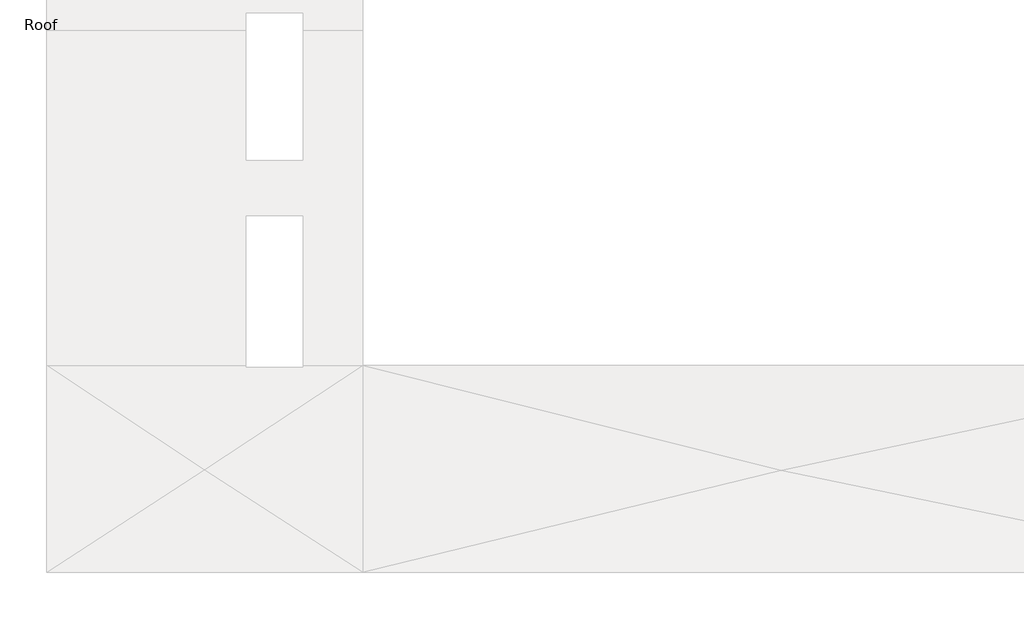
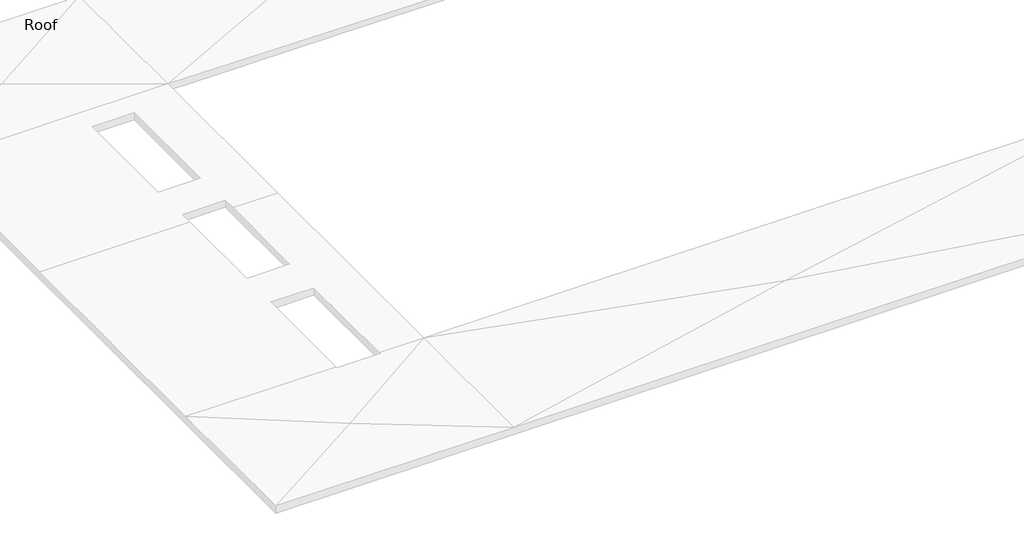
# One storey, part 2 of 7: 16 beams.
"""IFC4 building model written with IfcOpenShell, lengths in millimetres."""

from ifc_helpers import new_model, si_unit, point, frame, frame_2d, origin, place, context, project, spatial, polyline, circle_curve, trimmed, segment, composite_curve, outline, extrude, element, save
from ifc_brep_helpers import plane_surface, revolved_surface, advanced_brep

model = new_model("IFC4")

# Units and contexts
model_context = context("Model", 3, world=origin())
ifc_project = project(units=[si_unit("LENGTHUNIT", "METRE", prefix="MILLI")], contexts=[model_context])

# Site, building, storey
site = spatial("IfcSite", under=ifc_project)
building = spatial("IfcBuilding", under=site)
storey = spatial("IfcBuildingStorey", under=building, Name="Roof", Elevation=11400.0)

# Beams
placement = place(None, origin())
element("IfcBeam", 1, ObjectType="M_Concrete-Rectangular Beam : 400 x 800mm", at=placement, inside=storey, context=model_context, shape_type="AdvancedBrep", body=[
    advanced_brep(
    [(6447.6005584, -15422.9390207, 10600.0), (6447.6005584, -15519.8613801, 10600.0), (6447.6005584, -22435.0613801, 10600.0), (6447.6005584, -22531.9837394, 10600.0), (6447.6005584, -22531.9837394, 11000.0), (6447.6005584, -22435.0613801, 11000.0), (6447.6005584, -15519.8613801, 11000.0), (6447.6005584, -15422.9390207, 11000.0), (6750.678199, -15519.8613801, 10600.0), (6847.6005584, -15519.8613801, 10600.0), (6847.6005584, -22435.0613801, 10600.0), (6847.6005584, -22531.9837394, 10600.0), (6847.6005584, -15519.8613801, 11000.0), (6847.6005584, -22435.0613801, 11000.0), (6847.6005584, -22531.9837394, 11000.0), (6750.678199, -15519.8613801, 11000.0)],
    [
        (0, 1),
        (1, 2),
        (2, 3),
        (3, 4),
        (4, 5),
        (5, 6),
        (6, 7),
        (7, 0),
        (0, 8, circle_curve(frame((6647.6005584, -15319.8613801, 10600.0), z_axis=(0.0, 0.0, 1.0), x_axis=(-1.0, 0.0, 0.0)), 225.0)),
        (8, 9),
        (9, 10),
        (10, 11),
        (11, 3, circle_curve(frame((6647.6005584, -22635.0613801, 10600.0), z_axis=(0.0, 0.0, 1.0), x_axis=(-1.0, 0.0, 0.0)), 225.0)),
        (9, 12),
        (12, 13),
        (13, 14),
        (14, 11),
        (7, 15, circle_curve(frame((6647.6005584, -15319.8613801, 11000.0), z_axis=(0.0, 0.0, 1.0), x_axis=(-1.0, 0.0, 0.0)), 225.0)),
        (15, 8),
        (15, 12),
        (14, 4, circle_curve(frame((6647.6005584, -22635.0613801, 11000.0), z_axis=(0.0, 0.0, 1.0), x_axis=(-1.0, 0.0, 0.0)), 225.0)),
    ],
    [
        plane_surface(frame((6447.6005584, -22397.3613801, 11400.0), z_axis=(-1.0, 0.0, 0.0), x_axis=(0.0, 1.0, 0.0))),
        plane_surface(frame((6447.6005584, -22397.3613801, 10600.0), z_axis=(0.0, 0.0, -1.0), x_axis=(0.0, 1.0, 0.0))),
        plane_surface(frame((6847.6005584, -22397.3613801, 10600.0), z_axis=(1.0, 0.0, 0.0), x_axis=(0.0, 1.0, 0.0))),
        revolved_surface(polyline([(6422.6005584, -15319.8613801, 11000.0), (6422.6005584, -15319.8613801, 10600.0)]), (6647.6005584, -15319.8613801, 7600.0), (0.0, 0.0, 1.0)),
        plane_surface(frame((6885.3005584, -15519.8613801, 11000.0), z_axis=(0.0, 1.0, 0.0), x_axis=(0.0, 0.0, 1.0))),
        revolved_surface(polyline([(6422.6005584, -22635.0613801, 11000.0), (6422.6005584, -22635.0613801, 10600.0)]), (6647.6005584, -22635.0613801, 7600.0), (0.0, 0.0, 1.0)),
        plane_surface(frame((27511.8999097, 22114.0407562, 11000.0), z_axis=(0.0, 0.0, 1.0), x_axis=(0.0, -1.0, 0.0))),
    ],
    [
        (0, [[1, 2, 3, 4, 5, 6, 7, 8]]),
        (1, [[9, 10, 11, 12, 13, -3, -2, -1]]),
        (2, [[-12, -11, 14, 15, 16, 17]]),
        (3, [[-9, -8, 18, 19]]),
        (4, [[-10, -19, 20, -14]]),
        (5, [[-13, -17, 21, -4]]),
        (6, [[-7, -6, -5, -21, -16, -15, -20, -18]]),
    ],
),
])
element("IfcBeam", 2, ObjectType="M_Concrete-Rectangular Beam : 400 x 800mm", at=placement, inside=storey, context=model_context, shape_type="AdvancedBrep", body=[
    advanced_brep(
    [(12746.8005584, -15422.9390207, 10600.0), (12746.8005584, -15519.8613801, 10600.0), (12746.8005584, -22435.0613801, 10600.0), (12746.8005584, -22531.9837394, 10600.0), (12746.8005584, -22531.9837394, 11000.0), (12746.8005584, -22435.0613801, 11000.0), (12746.8005584, -15519.8613801, 11000.0), (12746.8005584, -15422.9390207, 11000.0), (13146.8005584, -15422.9390207, 10600.0), (13146.8005584, -15519.8613801, 10600.0), (13146.8005584, -22435.0613801, 10600.0), (13146.8005584, -22531.9837394, 10600.0), (13146.8005584, -15422.9390207, 11000.0), (13146.8005584, -15519.8613801, 11000.0), (13146.8005584, -22435.0613801, 11000.0), (13146.8005584, -22531.9837394, 11000.0)],
    [
        (0, 1),
        (1, 2),
        (2, 3),
        (3, 4),
        (4, 5),
        (5, 6),
        (6, 7),
        (7, 0),
        (0, 8, circle_curve(frame((12946.8005584, -15319.8613801, 10600.0), z_axis=(0.0, 0.0, 1.0), x_axis=(-1.0, 0.0, 0.0)), 225.0)),
        (8, 9),
        (9, 10),
        (10, 11),
        (11, 3, circle_curve(frame((12946.8005584, -22635.0613801, 10600.0), z_axis=(0.0, 0.0, 1.0), x_axis=(-1.0, 0.0, 0.0)), 225.0)),
        (8, 12),
        (12, 13),
        (13, 14),
        (14, 15),
        (15, 11),
        (7, 12, circle_curve(frame((12946.8005584, -15319.8613801, 11000.0), z_axis=(0.0, 0.0, 1.0), x_axis=(-1.0, 0.0, 0.0)), 225.0)),
        (15, 4, circle_curve(frame((12946.8005584, -22635.0613801, 11000.0), z_axis=(0.0, 0.0, 1.0), x_axis=(-1.0, 0.0, 0.0)), 225.0)),
    ],
    [
        plane_surface(frame((12746.8005584, -22397.3613801, 11400.0), z_axis=(-1.0, 0.0, 0.0), x_axis=(0.0, 1.0, 0.0))),
        plane_surface(frame((12746.8005584, -22397.3613801, 10600.0), z_axis=(0.0, 0.0, -1.0), x_axis=(0.0, 1.0, 0.0))),
        plane_surface(frame((13146.8005584, -22397.3613801, 10600.0), z_axis=(1.0, 0.0, 0.0), x_axis=(0.0, 1.0, 0.0))),
        revolved_surface(polyline([(12721.8005584, -15319.8613801, 11000.0), (12721.8005584, -15319.8613801, 10600.0)]), (12946.8005584, -15319.8613801, 7600.0), (0.0, 0.0, 1.0)),
        revolved_surface(polyline([(12721.8005584, -22635.0613801, 11000.0), (12721.8005584, -22635.0613801, 10600.0)]), (12946.8005584, -22635.0613801, 7600.0), (0.0, 0.0, 1.0)),
        plane_surface(frame((27511.8999097, 22114.0407562, 11000.0), z_axis=(0.0, 0.0, 1.0), x_axis=(0.0, -1.0, 0.0))),
    ],
    [
        (0, [[1, 2, 3, 4, 5, 6, 7, 8]]),
        (1, [[9, 10, 11, 12, 13, -3, -2, -1]]),
        (2, [[-12, -11, -10, 14, 15, 16, 17, 18]]),
        (3, [[-9, -8, 19, -14]]),
        (4, [[-13, -18, 20, -4]]),
        (5, [[-7, -6, -5, -20, -17, -16, -15, -19]]),
    ],
),
])
element("IfcBeam", 3, ObjectType="M_Concrete-Rectangular Beam : 400 x 800mm", at=placement, inside=storey, context=model_context, shape_type="AdvancedBrep", body=[
    advanced_brep(
    [(19249.2005584, -15422.9390207, 10600.0), (19249.2005584, -15519.8613801, 10600.0), (19249.2005584, -22435.0613801, 10600.0), (19249.2005584, -22531.9837394, 10600.0), (19249.2005584, -22531.9837394, 11000.0), (19249.2005584, -22435.0613801, 11000.0), (19249.2005584, -15519.8613801, 11000.0), (19249.2005584, -15422.9390207, 11000.0), (19649.2005584, -15422.9390207, 10600.0), (19649.2005584, -15519.8613801, 10600.0), (19649.2005584, -22435.0613801, 10600.0), (19649.2005584, -22531.9837394, 10600.0), (19649.2005584, -15422.9390207, 11000.0), (19649.2005584, -15519.8613801, 11000.0), (19649.2005584, -22435.0613801, 11000.0), (19649.2005584, -22531.9837394, 11000.0)],
    [
        (0, 1),
        (1, 2),
        (2, 3),
        (3, 4),
        (4, 5),
        (5, 6),
        (6, 7),
        (7, 0),
        (0, 8, circle_curve(frame((19449.2005584, -15319.8613801, 10600.0), z_axis=(0.0, 0.0, 1.0), x_axis=(-1.0, 0.0, 0.0)), 225.0)),
        (8, 9),
        (9, 10),
        (10, 11),
        (11, 3, circle_curve(frame((19449.2005584, -22635.0613801, 10600.0), z_axis=(0.0, 0.0, 1.0), x_axis=(-1.0, 0.0, 0.0)), 225.0)),
        (8, 12),
        (12, 13),
        (13, 14),
        (14, 15),
        (15, 11),
        (7, 12, circle_curve(frame((19449.2005584, -15319.8613801, 11000.0), z_axis=(0.0, 0.0, 1.0), x_axis=(-1.0, 0.0, 0.0)), 225.0)),
        (15, 4, circle_curve(frame((19449.2005584, -22635.0613801, 11000.0), z_axis=(0.0, 0.0, 1.0), x_axis=(-1.0, 0.0, 0.0)), 225.0)),
    ],
    [
        plane_surface(frame((19249.2005584, -22397.3613801, 11400.0), z_axis=(-1.0, 0.0, 0.0), x_axis=(0.0, 1.0, 0.0))),
        plane_surface(frame((19249.2005584, -22397.3613801, 10600.0), z_axis=(0.0, 0.0, -1.0), x_axis=(0.0, 1.0, 0.0))),
        plane_surface(frame((19649.2005584, -22397.3613801, 10600.0), z_axis=(1.0, 0.0, 0.0), x_axis=(0.0, 1.0, 0.0))),
        revolved_surface(polyline([(19224.2005584, -15319.8613801, 11000.0), (19224.2005584, -15319.8613801, 10600.0)]), (19449.2005584, -15319.8613801, 7600.0), (0.0, 0.0, 1.0)),
        revolved_surface(polyline([(19224.2005584, -22635.0613801, 11000.0), (19224.2005584, -22635.0613801, 10600.0)]), (19449.2005584, -22635.0613801, 7600.0), (0.0, 0.0, 1.0)),
        plane_surface(frame((27511.8999097, 22114.0407562, 11000.0), z_axis=(0.0, 0.0, 1.0), x_axis=(0.0, -1.0, 0.0))),
    ],
    [
        (0, [[1, 2, 3, 4, 5, 6, 7, 8]]),
        (1, [[9, 10, 11, 12, 13, -3, -2, -1]]),
        (2, [[-12, -11, -10, 14, 15, 16, 17, 18]]),
        (3, [[-9, -8, 19, -14]]),
        (4, [[-13, -18, 20, -4]]),
        (5, [[-7, -6, -5, -20, -17, -16, -15, -19]]),
    ],
),
])
element("IfcBeam", 4, ObjectType="M_Concrete-Rectangular Beam : 400 x 800mm", at=placement, inside=storey, context=model_context, shape_type="AdvancedBrep", body=[
    advanced_brep(
    [(25751.6005584, -15422.9390207, 10600.0), (25751.6005584, -15519.8613801, 10600.0), (25751.6005584, -22435.0613801, 10600.0), (25751.6005584, -22531.9837394, 10600.0), (25751.6005584, -22531.9837394, 11000.0), (25751.6005584, -22435.0613801, 11000.0), (25751.6005584, -15519.8613801, 11000.0), (25751.6005584, -15422.9390207, 11000.0), (26151.6005584, -15422.9390207, 10600.0), (26151.6005584, -15519.8613801, 10600.0), (26151.6005584, -22435.0613801, 10600.0), (26151.6005584, -22531.9837394, 10600.0), (26151.6005584, -15422.9390207, 11000.0), (26151.6005584, -15519.8613801, 11000.0), (26151.6005584, -22435.0613801, 11000.0), (26151.6005584, -22531.9837394, 11000.0)],
    [
        (0, 1),
        (1, 2),
        (2, 3),
        (3, 4),
        (4, 5),
        (5, 6),
        (6, 7),
        (7, 0),
        (0, 8, circle_curve(frame((25951.6005584, -15319.8613801, 10600.0), z_axis=(0.0, 0.0, 1.0), x_axis=(-1.0, 0.0, 0.0)), 225.0)),
        (8, 9),
        (9, 10),
        (10, 11),
        (11, 3, circle_curve(frame((25951.6005584, -22635.0613801, 10600.0), z_axis=(0.0, 0.0, 1.0), x_axis=(-1.0, 0.0, 0.0)), 225.0)),
        (8, 12),
        (12, 13),
        (13, 14),
        (14, 15),
        (15, 11),
        (7, 12, circle_curve(frame((25951.6005584, -15319.8613801, 11000.0), z_axis=(0.0, 0.0, 1.0), x_axis=(-1.0, 0.0, 0.0)), 225.0)),
        (15, 4, circle_curve(frame((25951.6005584, -22635.0613801, 11000.0), z_axis=(0.0, 0.0, 1.0), x_axis=(-1.0, 0.0, 0.0)), 225.0)),
    ],
    [
        plane_surface(frame((25751.6005584, -22397.3613801, 11400.0), z_axis=(-1.0, 0.0, 0.0), x_axis=(0.0, 1.0, 0.0))),
        plane_surface(frame((25751.6005584, -22397.3613801, 10600.0), z_axis=(0.0, 0.0, -1.0), x_axis=(0.0, 1.0, 0.0))),
        plane_surface(frame((26151.6005584, -22397.3613801, 10600.0), z_axis=(1.0, 0.0, 0.0), x_axis=(0.0, 1.0, 0.0))),
        revolved_surface(polyline([(25726.6005584, -15319.8613801, 11000.0), (25726.6005584, -15319.8613801, 10600.0)]), (25951.6005584, -15319.8613801, 7600.0), (0.0, 0.0, 1.0)),
        revolved_surface(polyline([(25726.6005584, -22635.0613801, 11000.0), (25726.6005584, -22635.0613801, 10600.0)]), (25951.6005584, -22635.0613801, 7600.0), (0.0, 0.0, 1.0)),
        plane_surface(frame((27511.8999097, 22114.0407562, 11000.0), z_axis=(0.0, 0.0, 1.0), x_axis=(0.0, -1.0, 0.0))),
    ],
    [
        (0, [[1, 2, 3, 4, 5, 6, 7, 8]]),
        (1, [[9, 10, 11, 12, 13, -3, -2, -1]]),
        (2, [[-12, -11, -10, 14, 15, 16, 17, 18]]),
        (3, [[-9, -8, 19, -14]]),
        (4, [[-13, -18, 20, -4]]),
        (5, [[-7, -6, -5, -20, -17, -16, -15, -19]]),
    ],
),
])
element("IfcBeam", 5, ObjectType="M_Concrete-Rectangular Beam : 400 x 800mm", at=placement, inside=storey, context=model_context, shape_type="AdvancedBrep", body=[
    advanced_brep(
    [(554.8005584, -5569.4613801, 10600.0), (-1586.7994416, -5569.4613801, 10600.0), (-1586.7994416, -5569.4613801, 11000.0), (554.8005584, -5569.4613801, 11000.0), (554.8005584, -5666.3837394, 10600.0), (529.8005584, -5769.4613801, 10600.0), (651.7229178, -5969.4613801, 10600.0), (554.8005584, -5969.4613801, 10600.0), (-1586.7994416, -5969.4613801, 10600.0), (651.7229178, -5969.4613801, 11000.0), (554.8005584, -5969.4613801, 11000.0), (-1586.7994416, -5969.4613801, 11000.0), (554.8005584, -5666.3837394, 11000.0), (529.8005584, -5769.4613801, 11000.0)],
    [
        (0, 1),
        (1, 2),
        (2, 3),
        (3, 0),
        (0, 4),
        (4, 5, circle_curve(frame((754.8005584, -5769.4613801, 10600.0), z_axis=(0.0, 0.0, 1.0), x_axis=(-1.0, 0.0, 0.0)), 225.0)),
        (5, 6, circle_curve(frame((754.8005584, -5769.4613801, 10600.0), z_axis=(0.0, 0.0, 1.0), x_axis=(-1.0, 0.0, 0.0)), 225.0)),
        (6, 7),
        (7, 8),
        (8, 1),
        (6, 9),
        (9, 10),
        (10, 11),
        (11, 8),
        (3, 12),
        (12, 4),
        (5, 13),
        (13, 9, circle_curve(frame((754.8005584, -5769.4613801, 11000.0), z_axis=(0.0, 0.0, 1.0), x_axis=(-1.0, 0.0, 0.0)), 225.0)),
        (12, 13, circle_curve(frame((754.8005584, -5769.4613801, 11000.0), z_axis=(0.0, 0.0, 1.0), x_axis=(-1.0, 0.0, 0.0)), 225.0)),
        (11, 2),
    ],
    [
        plane_surface(frame((-1649.0994416, -5569.4613801, 11000.0), z_axis=(0.0, 1.0, 0.0), x_axis=(0.0, 0.0, -1.0))),
        plane_surface(frame((-1649.0994416, -5769.4613801, 10600.0), z_axis=(0.0, 0.0, -1.0), x_axis=(0.0, -1.0, 0.0))),
        plane_surface(frame((-1649.0994416, -5969.4613801, 11000.0), z_axis=(0.0, -1.0, 0.0), x_axis=(0.0, 0.0, 1.0))),
        plane_surface(frame((554.8005584, -5531.7613801, 11000.0), z_axis=(1.0, 0.0, 0.0), x_axis=(0.0, 0.0, -1.0))),
        revolved_surface(polyline([(529.8005584, -5769.4613801, 11000.0), (529.8005584, -5769.4613801, 10600.0)]), (754.8005584, -5769.4613801, 7600.0), (0.0, 0.0, 1.0)),
        plane_surface(frame((-1586.7994416, -5531.7613801, 10950.0), z_axis=(-1.0, 0.0, 0.0), x_axis=(0.0, 0.0, 1.0))),
        plane_surface(frame((27511.8999097, 22114.0407562, 11000.0), z_axis=(0.0, 0.0, 1.0), x_axis=(0.0, -1.0, 0.0))),
    ],
    [
        (0, [[1, 2, 3, 4]]),
        (1, [[5, 6, 7, 8, 9, 10, -1]]),
        (2, [[-9, -8, 11, 12, 13, 14]]),
        (3, [[-5, -4, 15, 16]]),
        (4, [[-7, 17, 18, -11]]),
        (4, [[-6, -16, 19, -17]]),
        (5, [[-10, -14, 20, -2]]),
        (6, [[-3, -20, -13, -12, -18, -19, -15]]),
    ],
),
])
element("IfcBeam", 6, ObjectType="M_Concrete-Rectangular Beam : 400 x 800mm", at=placement, inside=storey, context=model_context, shape_type="AdvancedBrep", body=[
    advanced_brep(
    [(-2186.7994416, -5569.4613801, 10600.0), (-9001.9994416, -5569.4613801, 10600.0), (-9001.9994416, -5569.4613801, 11000.0), (-2186.7994416, -5569.4613801, 11000.0), (-9001.9994416, -5666.3837394, 10600.0), (-2186.7994416, -5969.4613801, 10600.0), (-3515.5994416, -5969.4613801, 10600.0), (-3915.5994416, -5969.4613801, 10600.0), (-5344.3994416, -5969.4613801, 10600.0), (-5744.3994416, -5969.4613801, 10600.0), (-7173.1994416, -5969.4613801, 10600.0), (-7573.1994416, -5969.4613801, 10600.0), (-9001.9994416, -5969.4613801, 10600.0), (-9098.921801, -5969.4613801, 10600.0), (-8976.9994416, -5769.4613801, 10600.0), (-2186.7994416, -5969.4613801, 11000.0), (-3515.5994416, -5969.4613801, 11000.0), (-3915.5994416, -5969.4613801, 11000.0), (-5344.3994416, -5969.4613801, 11000.0), (-5744.3994416, -5969.4613801, 11000.0), (-7173.1994416, -5969.4613801, 11000.0), (-7573.1994416, -5969.4613801, 11000.0), (-9001.9994416, -5969.4613801, 11000.0), (-9098.921801, -5969.4613801, 11000.0), (-9001.9994416, -5666.3837394, 11000.0), (-8976.9994416, -5769.4613801, 11000.0)],
    [
        (0, 1),
        (1, 2),
        (2, 3),
        (3, 0),
        (4, 1),
        (0, 5),
        (5, 6),
        (6, 7),
        (7, 8),
        (8, 9),
        (9, 10),
        (10, 11),
        (11, 12),
        (12, 13),
        (13, 14, circle_curve(frame((-9201.9994416, -5769.4613801, 10600.0), z_axis=(0.0, 0.0, 1.0), x_axis=(-1.0, 0.0, 0.0)), 225.0)),
        (14, 4, circle_curve(frame((-9201.9994416, -5769.4613801, 10600.0), z_axis=(0.0, 0.0, 1.0), x_axis=(-1.0, 0.0, 0.0)), 225.0)),
        (5, 15),
        (15, 16),
        (16, 17),
        (17, 18),
        (18, 19),
        (19, 20),
        (20, 21),
        (21, 22),
        (22, 23),
        (23, 13),
        (4, 24),
        (24, 2),
        (23, 25, circle_curve(frame((-9201.9994416, -5769.4613801, 11000.0), z_axis=(0.0, 0.0, 1.0), x_axis=(-1.0, 0.0, 0.0)), 225.0)),
        (25, 14),
        (25, 24, circle_curve(frame((-9201.9994416, -5769.4613801, 11000.0), z_axis=(0.0, 0.0, 1.0), x_axis=(-1.0, 0.0, 0.0)), 225.0)),
        (3, 15),
    ],
    [
        plane_surface(frame((-8964.2994416, -5569.4613801, 11400.0), z_axis=(0.0, 1.0, 0.0), x_axis=(1.0, 0.0, 0.0))),
        plane_surface(frame((-8964.2994416, -5569.4613801, 10600.0), z_axis=(0.0, 0.0, -1.0), x_axis=(1.0, 0.0, 0.0))),
        plane_surface(frame((-8964.2994416, -5969.4613801, 10600.0), z_axis=(0.0, -1.0, 0.0), x_axis=(1.0, 0.0, 0.0))),
        plane_surface(frame((-9001.9994416, -5531.7613801, 11000.0), z_axis=(-1.0, 0.0, 0.0), x_axis=(0.0, 0.0, 1.0))),
        revolved_surface(polyline([(-9426.9994416, -5769.4613801, 11000.0), (-9426.9994416, -5769.4613801, 10600.0)]), (-9201.9994416, -5769.4613801, 7600.0), (0.0, 0.0, 1.0)),
        plane_surface(frame((-2186.7994416, -5545.5322965, 10500.0), z_axis=(1.0, 0.0, 0.0), x_axis=(0.0, -1.0, 0.0))),
        plane_surface(frame((27511.8999097, 22114.0407562, 11000.0), z_axis=(0.0, 0.0, 1.0), x_axis=(0.0, -1.0, 0.0))),
    ],
    [
        (0, [[1, 2, 3, 4]]),
        (1, [[5, -1, 6, 7, 8, 9, 10, 11, 12, 13, 14, 15, 16]]),
        (2, [[-14, -13, -12, -11, -10, -9, -8, -7, 17, 18, 19, 20, 21, 22, 23, 24, 25, 26]]),
        (3, [[-5, 27, 28, -2]]),
        (4, [[-15, -26, 29, 30]]),
        (4, [[-16, -30, 31, -27]]),
        (5, [[-6, -4, 32, -17]]),
        (6, [[-3, -28, -31, -29, -25, -24, -23, -22, -21, -20, -19, -18, -32]]),
    ],
),
])
element("IfcBeam", 7, ObjectType="M_Concrete-Rectangular Beam : 400 x 800mm", at=placement, inside=storey, context=model_context, shape_type="SweptSolid", body=[
    extrude(outline(composite_curve([segment(polyline([(954.8005584, -15216.7837394), (954.8005584, -15119.8613801), (6447.6005584, -15119.8613801), (6447.6005584, -15216.7837394)]), True, "CONTINUOUS"), segment(trimmed(circle_curve(frame_2d((6647.6005584, -15319.8613801)), 225.0), [point((6447.6005584, -15216.7837394))], [point((6422.6005584, -15319.8613801))], True, "CARTESIAN"), True, "CONTINUOUS"), segment(trimmed(circle_curve(frame_2d((6647.6005584, -15319.8613801)), 225.0), [point((6422.6005584, -15319.8613801))], [point((6447.6005584, -15422.9390207))], True, "CARTESIAN"), True, "CONTINUOUS"), segment(polyline([(6447.6005584, -15422.9390207), (6447.6005584, -15519.8613801), (857.878199, -15519.8613801)]), True, "CONTINUOUS"), segment(trimmed(circle_curve(frame_2d((754.8005584, -15319.8613801)), 225.0), [point((857.878199, -15519.8613801))], [point((979.8005584, -15319.8613801))], True, "CARTESIAN"), True, "CONTINUOUS"), segment(trimmed(circle_curve(frame_2d((754.8005584, -15319.8613801)), 225.0), [point((979.8005584, -15319.8613801))], [point((954.8005584, -15216.7837394))], True, "CARTESIAN"), True, "CONTINUOUS")], self_intersect=False)), frame((0.0, 0.0, 10600.0), z_axis=(0.0, 0.0, 1.0), x_axis=(1.0, 0.0, 0.0)), (0.0, 0.0, 1.0), 400.0),
])
element("IfcBeam", 8, ObjectType="M_Concrete-Rectangular Beam : 400 x 800mm", at=placement, inside=storey, context=model_context, shape_type="SweptSolid", body=[
    extrude(outline(composite_curve([segment(polyline([(26151.6005584, -22531.9837394), (26151.6005584, -22435.0613801), (32254.0005584, -22435.0613801), (32254.0005584, -22531.9837394)]), True, "CONTINUOUS"), segment(trimmed(circle_curve(frame_2d((32454.0005584, -22635.0613801)), 225.0), [point((32254.0005584, -22531.9837394))], [point((32229.0005584, -22635.0613801))], True, "CARTESIAN"), True, "CONTINUOUS"), segment(trimmed(circle_curve(frame_2d((32454.0005584, -22635.0613801)), 225.0), [point((32229.0005584, -22635.0613801))], [point((32350.9229178, -22835.0613801))], True, "CARTESIAN"), True, "CONTINUOUS"), segment(polyline([(32350.9229178, -22835.0613801), (26054.678199, -22835.0613801)]), True, "CONTINUOUS"), segment(trimmed(circle_curve(frame_2d((25951.6005584, -22635.0613801)), 225.0), [point((26054.678199, -22835.0613801))], [point((26176.6005584, -22635.0613801))], True, "CARTESIAN"), True, "CONTINUOUS"), segment(trimmed(circle_curve(frame_2d((25951.6005584, -22635.0613801)), 225.0), [point((26176.6005584, -22635.0613801))], [point((26151.6005584, -22531.9837394))], True, "CARTESIAN"), True, "CONTINUOUS")], self_intersect=False)), frame((0.0, 0.0, 10600.0), z_axis=(0.0, 0.0, 1.0), x_axis=(1.0, 0.0, 0.0)), (0.0, 0.0, 1.0), 400.0),
])
element("IfcBeam", 9, ObjectType="M_Concrete-Rectangular Beam : 400 x 800mm", at=placement, inside=storey, context=model_context, shape_type="SweptSolid", body=[
    extrude(outline(composite_curve([segment(polyline([(19649.2005584, -22531.9837394), (19649.2005584, -22435.0613801), (25751.6005584, -22435.0613801), (25751.6005584, -22531.9837394)]), True, "CONTINUOUS"), segment(trimmed(circle_curve(frame_2d((25951.6005584, -22635.0613801)), 225.0), [point((25751.6005584, -22531.9837394))], [point((25726.6005584, -22635.0613801))], True, "CARTESIAN"), True, "CONTINUOUS"), segment(trimmed(circle_curve(frame_2d((25951.6005584, -22635.0613801)), 225.0), [point((25726.6005584, -22635.0613801))], [point((25848.5229178, -22835.0613801))], True, "CARTESIAN"), True, "CONTINUOUS"), segment(polyline([(25848.5229178, -22835.0613801), (19552.278199, -22835.0613801)]), True, "CONTINUOUS"), segment(trimmed(circle_curve(frame_2d((19449.2005584, -22635.0613801)), 225.0), [point((19552.278199, -22835.0613801))], [point((19674.2005584, -22635.0613801))], True, "CARTESIAN"), True, "CONTINUOUS"), segment(trimmed(circle_curve(frame_2d((19449.2005584, -22635.0613801)), 225.0), [point((19674.2005584, -22635.0613801))], [point((19649.2005584, -22531.9837394))], True, "CARTESIAN"), True, "CONTINUOUS")], self_intersect=False)), frame((0.0, 0.0, 10600.0), z_axis=(0.0, 0.0, 1.0), x_axis=(1.0, 0.0, 0.0)), (0.0, 0.0, 1.0), 400.0),
])
element("IfcBeam", 10, ObjectType="M_Concrete-Rectangular Beam : 400 x 800mm", at=placement, inside=storey, context=model_context, shape_type="SweptSolid", body=[
    extrude(outline(composite_curve([segment(polyline([(13146.8005584, -22531.9837394), (13146.8005584, -22435.0613801), (19249.2005584, -22435.0613801), (19249.2005584, -22531.9837394)]), True, "CONTINUOUS"), segment(trimmed(circle_curve(frame_2d((19449.2005584, -22635.0613801)), 225.0), [point((19249.2005584, -22531.9837394))], [point((19224.2005584, -22635.0613801))], True, "CARTESIAN"), True, "CONTINUOUS"), segment(trimmed(circle_curve(frame_2d((19449.2005584, -22635.0613801)), 225.0), [point((19224.2005584, -22635.0613801))], [point((19346.1229178, -22835.0613801))], True, "CARTESIAN"), True, "CONTINUOUS"), segment(polyline([(19346.1229178, -22835.0613801), (13049.878199, -22835.0613801)]), True, "CONTINUOUS"), segment(trimmed(circle_curve(frame_2d((12946.8005584, -22635.0613801)), 225.0), [point((13049.878199, -22835.0613801))], [point((13171.8005584, -22635.0613801))], True, "CARTESIAN"), True, "CONTINUOUS"), segment(trimmed(circle_curve(frame_2d((12946.8005584, -22635.0613801)), 225.0), [point((13171.8005584, -22635.0613801))], [point((13146.8005584, -22531.9837394))], True, "CARTESIAN"), True, "CONTINUOUS")], self_intersect=False)), frame((0.0, 0.0, 10600.0), z_axis=(0.0, 0.0, 1.0), x_axis=(1.0, 0.0, 0.0)), (0.0, 0.0, 1.0), 400.0),
])
element("IfcBeam", 11, ObjectType="M_Concrete-Rectangular Beam : 400 x 800mm", at=placement, inside=storey, context=model_context, shape_type="SweptSolid", body=[
    extrude(outline(composite_curve([segment(polyline([(6847.6005584, -22531.9837394), (6847.6005584, -22435.0613801), (12746.8005584, -22435.0613801), (12746.8005584, -22531.9837394)]), True, "CONTINUOUS"), segment(trimmed(circle_curve(frame_2d((12946.8005584, -22635.0613801)), 225.0), [point((12746.8005584, -22531.9837394))], [point((12721.8005584, -22635.0613801))], True, "CARTESIAN"), True, "CONTINUOUS"), segment(trimmed(circle_curve(frame_2d((12946.8005584, -22635.0613801)), 225.0), [point((12721.8005584, -22635.0613801))], [point((12843.7229178, -22835.0613801))], True, "CARTESIAN"), True, "CONTINUOUS"), segment(polyline([(12843.7229178, -22835.0613801), (6750.678199, -22835.0613801)]), True, "CONTINUOUS"), segment(trimmed(circle_curve(frame_2d((6647.6005584, -22635.0613801)), 225.0), [point((6750.678199, -22835.0613801))], [point((6872.6005584, -22635.0613801))], True, "CARTESIAN"), True, "CONTINUOUS"), segment(trimmed(circle_curve(frame_2d((6647.6005584, -22635.0613801)), 225.0), [point((6872.6005584, -22635.0613801))], [point((6847.6005584, -22531.9837394))], True, "CARTESIAN"), True, "CONTINUOUS")], self_intersect=False)), frame((0.0, 0.0, 10600.0), z_axis=(0.0, 0.0, 1.0), x_axis=(1.0, 0.0, 0.0)), (0.0, 0.0, 1.0), 400.0),
])
element("IfcBeam", 12, ObjectType="M_Concrete-Rectangular Beam : 400 x 800mm", at=placement, inside=storey, context=model_context, shape_type="SweptSolid", body=[
    extrude(outline(composite_curve([segment(polyline([(6447.6005584, -22435.0613801), (6447.6005584, -22531.9837394)]), True, "CONTINUOUS"), segment(trimmed(circle_curve(frame_2d((6647.6005584, -22635.0613801)), 225.0), [point((6447.6005584, -22531.9837394))], [point((6422.6005584, -22635.0613801))], True, "CARTESIAN"), True, "CONTINUOUS"), segment(trimmed(circle_curve(frame_2d((6647.6005584, -22635.0613801)), 225.0), [point((6422.6005584, -22635.0613801))], [point((6544.5229178, -22835.0613801))], True, "CARTESIAN"), True, "CONTINUOUS"), segment(polyline([(6544.5229178, -22835.0613801), (857.878199, -22835.0613801)]), True, "CONTINUOUS"), segment(trimmed(circle_curve(frame_2d((754.8005584, -22635.0613801)), 225.0), [point((857.878199, -22835.0613801))], [point((979.8005584, -22635.0613801))], True, "CARTESIAN"), True, "CONTINUOUS"), segment(trimmed(circle_curve(frame_2d((754.8005584, -22635.0613801)), 225.0), [point((979.8005584, -22635.0613801))], [point((857.878199, -22435.0613801))], True, "CARTESIAN"), True, "CONTINUOUS"), segment(polyline([(857.878199, -22435.0613801), (6447.6005584, -22435.0613801)]), True, "CONTINUOUS")], self_intersect=False)), frame((0.0, 0.0, 10600.0), z_axis=(0.0, 0.0, 1.0), x_axis=(1.0, 0.0, 0.0)), (0.0, 0.0, 1.0), 400.0),
    extrude(outline(composite_curve([segment(polyline([(-1586.7994416, -22835.0613801), (-1586.7994416, -22435.0613801), (651.7229178, -22435.0613801)]), True, "CONTINUOUS"), segment(trimmed(circle_curve(frame_2d((754.8005584, -22635.0613801)), 225.0), [point((651.7229178, -22435.0613801))], [point((529.8005584, -22635.0613801))], True, "CARTESIAN"), True, "CONTINUOUS"), segment(trimmed(circle_curve(frame_2d((754.8005584, -22635.0613801)), 225.0), [point((529.8005584, -22635.0613801))], [point((651.7229178, -22835.0613801))], True, "CARTESIAN"), True, "CONTINUOUS"), segment(polyline([(651.7229178, -22835.0613801), (-1586.7994416, -22835.0613801)]), True, "CONTINUOUS")], self_intersect=False)), frame((0.0, 0.0, 10600.0), z_axis=(0.0, 0.0, 1.0), x_axis=(1.0, 0.0, 0.0)), (0.0, 0.0, 1.0), 400.0),
])
element("IfcBeam", 13, ObjectType="M_Concrete-Rectangular Beam : 400 x 800mm", at=placement, inside=storey, context=model_context, shape_type="SweptSolid", body=[
    extrude(outline(composite_curve([segment(trimmed(circle_curve(frame_2d((754.8005584, -1413.3613801)), 225.0), [point((529.8005584, -1413.3613801))], [point((554.8005584, -1516.4390207))], True, "CARTESIAN"), True, "CONTINUOUS"), segment(polyline([(554.8005584, -1516.4390207), (554.8005584, -1613.3613801), (-1586.7994416, -1613.3613801), (-1586.7994416, -1213.3613801), (554.8005584, -1213.3613801), (554.8005584, -1310.2837394)]), True, "CONTINUOUS"), segment(trimmed(circle_curve(frame_2d((754.8005584, -1413.3613801)), 225.0), [point((554.8005584, -1310.2837394))], [point((529.8005584, -1413.3613801))], True, "CARTESIAN"), True, "CONTINUOUS")], self_intersect=False)), frame((0.0, 0.0, 10600.0), z_axis=(0.0, 0.0, 1.0), x_axis=(1.0, 0.0, 0.0)), (0.0, 0.0, 1.0), 400.0),
])
element("IfcBeam", 14, ObjectType="M_Concrete-Rectangular Beam : 400 x 800mm", at=placement, inside=storey, context=model_context, shape_type="AdvancedBrep", body=[
    advanced_brep(
    [(-2186.7994416, -1213.3613801, 10600.0), (-9001.9994416, -1213.3613801, 10600.0), (-9001.9994416, -1213.3613801, 11000.0), (-2186.7994416, -1213.3613801, 11000.0), (-9098.921801, -1613.3613801, 10600.0), (-8976.9994416, -1413.3613801, 10600.0), (-9001.9994416, -1310.2837394, 10600.0), (-2186.7994416, -1613.3613801, 10600.0), (-9001.9994416, -1613.3613801, 10600.0), (-2186.7994416, -1613.3613801, 11000.0), (-9001.9994416, -1613.3613801, 11000.0), (-9098.921801, -1613.3613801, 11000.0), (-8976.9994416, -1413.3613801, 11000.0), (-9001.9994416, -1310.2837394, 11000.0)],
    [
        (0, 1),
        (1, 2),
        (2, 3),
        (3, 0),
        (4, 5, circle_curve(frame((-9201.9994416, -1413.3613801, 10600.0), z_axis=(0.0, 0.0, 1.0), x_axis=(-1.0, 0.0, 0.0)), 225.0)),
        (5, 6, circle_curve(frame((-9201.9994416, -1413.3613801, 10600.0), z_axis=(0.0, 0.0, 1.0), x_axis=(-1.0, 0.0, 0.0)), 225.0)),
        (6, 1),
        (0, 7),
        (7, 8),
        (8, 4),
        (7, 9),
        (9, 10),
        (10, 11),
        (11, 4),
        (11, 12, circle_curve(frame((-9201.9994416, -1413.3613801, 11000.0), z_axis=(0.0, 0.0, 1.0), x_axis=(-1.0, 0.0, 0.0)), 225.0)),
        (12, 5),
        (12, 13, circle_curve(frame((-9201.9994416, -1413.3613801, 11000.0), z_axis=(0.0, 0.0, 1.0), x_axis=(-1.0, 0.0, 0.0)), 225.0)),
        (13, 6),
        (13, 2),
        (3, 9),
    ],
    [
        plane_surface(frame((-8964.2994416, -1213.3613801, 11400.0), z_axis=(0.0, 1.0, 0.0), x_axis=(1.0, 0.0, 0.0))),
        plane_surface(frame((-8964.2994416, -1213.3613801, 10600.0), z_axis=(0.0, 0.0, -1.0), x_axis=(1.0, 0.0, 0.0))),
        plane_surface(frame((-8964.2994416, -1613.3613801, 10600.0), z_axis=(0.0, -1.0, 0.0), x_axis=(1.0, 0.0, 0.0))),
        revolved_surface(polyline([(-9426.9994416, -1413.3613801, 11000.0), (-9426.9994416, -1413.3613801, 10600.0)]), (-9201.9994416, -1413.3613801, 7600.0), (0.0, 0.0, 1.0)),
        plane_surface(frame((-9001.9994416, -1175.6613801, 11000.0), z_axis=(-1.0, 0.0, 0.0), x_axis=(0.0, 0.0, 1.0))),
        plane_surface(frame((-2186.7994416, -5531.7613801, 10950.0), z_axis=(1.0, 0.0, 0.0), x_axis=(0.0, 0.0, -1.0))),
        plane_surface(frame((27511.8999097, 22114.0407562, 11000.0), z_axis=(0.0, 0.0, 1.0), x_axis=(0.0, -1.0, 0.0))),
    ],
    [
        (0, [[1, 2, 3, 4]]),
        (1, [[5, 6, 7, -1, 8, 9, 10]]),
        (2, [[-10, -9, 11, 12, 13, 14]]),
        (3, [[-5, -14, 15, 16]]),
        (3, [[-6, -16, 17, 18]]),
        (4, [[-7, -18, 19, -2]]),
        (5, [[-8, -4, 20, -11]]),
        (6, [[-3, -19, -17, -15, -13, -12, -20]]),
    ],
),
])
element("IfcBeam", 15, ObjectType="M_Concrete-Rectangular Beam : 600 x 900", at=placement, inside=storey, context=model_context, shape_type="AdvancedBrep", body=[
    advanced_brep(
    [(-2186.7994416, 329.7386199, 10500.0), (-2186.7994416, -1613.3613801, 10500.0), (-2186.7994416, -1613.3613801, 10600.0), (-2186.7994416, -1613.3613801, 11000.0), (-2186.7994416, -1213.3613801, 11000.0), (-2186.7994416, 329.7386199, 11000.0), (-1989.8770822, 329.7386199, 10500.0), (-1783.721801, 329.7386199, 10500.0), (-1586.7994416, 329.7386199, 10500.0), (-1586.7994416, -1613.3613801, 10500.0), (-1783.721801, -1613.3613801, 10500.0), (-1661.7994416, -1413.3613801, 10500.0), (-2111.7994416, -1413.3613801, 10500.0), (-1989.8770822, -1613.3613801, 10500.0), (-1586.7994416, 329.7386199, 11000.0), (-1586.7994416, -1213.3613801, 11000.0), (-1586.7994416, -1613.3613801, 11000.0), (-1586.7994416, -1613.3613801, 10600.0), (-1783.721801, -1613.3613801, 11000.0), (-1783.721801, 329.7386199, 11000.0), (-1989.8770822, 329.7386199, 11000.0), (-2111.7994416, -1413.3613801, 11000.0), (-1989.8770822, -1613.3613801, 11000.0), (-1661.7994416, -1413.3613801, 11000.0)],
    [
        (0, 1),
        (1, 2),
        (2, 3),
        (3, 4),
        (4, 5),
        (5, 0),
        (0, 6),
        (6, 7, circle_curve(frame((-1886.7994416, 529.7386199, 10500.0), z_axis=(0.0, 0.0, 1.0), x_axis=(-1.0, 0.0, 0.0)), 225.0)),
        (7, 8),
        (8, 9),
        (9, 10),
        (10, 11, circle_curve(frame((-1886.7994416, -1413.3613801, 10500.0), z_axis=(0.0, 0.0, 1.0), x_axis=(-1.0, 0.0, 0.0)), 225.0)),
        (11, 12, circle_curve(frame((-1886.7994416, -1413.3613801, 10500.0), z_axis=(0.0, 0.0, 1.0), x_axis=(-1.0, 0.0, 0.0)), 225.0)),
        (12, 13, circle_curve(frame((-1886.7994416, -1413.3613801, 10500.0), z_axis=(0.0, 0.0, 1.0), x_axis=(-1.0, 0.0, 0.0)), 225.0)),
        (13, 1),
        (8, 14),
        (14, 15),
        (15, 16),
        (16, 17),
        (17, 9),
        (16, 18),
        (18, 10),
        (7, 19),
        (19, 14),
        (6, 20),
        (20, 19, circle_curve(frame((-1886.7994416, 529.7386199, 11000.0), z_axis=(0.0, 0.0, 1.0), x_axis=(-1.0, 0.0, 0.0)), 225.0)),
        (5, 20),
        (12, 21),
        (21, 22, circle_curve(frame((-1886.7994416, -1413.3613801, 11000.0), z_axis=(0.0, 0.0, 1.0), x_axis=(-1.0, 0.0, 0.0)), 225.0)),
        (22, 13),
        (11, 23),
        (23, 21, circle_curve(frame((-1886.7994416, -1413.3613801, 11000.0), z_axis=(0.0, 0.0, 1.0), x_axis=(-1.0, 0.0, 0.0)), 225.0)),
        (22, 3),
        (18, 23, circle_curve(frame((-1886.7994416, -1413.3613801, 11000.0), z_axis=(0.0, 0.0, 1.0), x_axis=(-1.0, 0.0, 0.0)), 225.0)),
    ],
    [
        plane_surface(frame((-2186.7994416, -1175.6613801, 10950.0), z_axis=(-1.0, 0.0, 0.0), x_axis=(0.0, 0.0, -1.0))),
        plane_surface(frame((-1886.7994416, -1175.6613801, 10500.0), z_axis=(0.0, 0.0, -1.0), x_axis=(1.0, 0.0, 0.0))),
        plane_surface(frame((-1586.7994416, -1175.6613801, 10950.0), z_axis=(1.0, 0.0, 0.0), x_axis=(0.0, 0.0, 1.0))),
        plane_surface(frame((-1562.8703581, -1613.3613801, 11400.0), z_axis=(0.0, -1.0, 0.0), x_axis=(-1.0, 0.0, 0.0))),
        plane_surface(frame((-1649.0994416, 329.7386199, 11000.0), z_axis=(0.0, 1.0, 0.0), x_axis=(0.0, 0.0, 1.0))),
        revolved_surface(polyline([(-2111.7994416, 529.7386199, 11000.0), (-2111.7994416, 529.7386199, 10500.0)]), (-1886.7994416, 529.7386199, 7600.0), (0.0, 0.0, 1.0)),
        revolved_surface(polyline([(-2111.7994416, -1413.3613801, 11000.0), (-2111.7994416, -1413.3613801, 10500.0)]), (-1886.7994416, -1413.3613801, 7600.0), (0.0, 0.0, 1.0)),
        plane_surface(frame((27511.8999097, 22114.0407562, 11000.0), z_axis=(0.0, 0.0, 1.0), x_axis=(0.0, -1.0, 0.0))),
    ],
    [
        (0, [[1, 2, 3, 4, 5, 6]]),
        (1, [[-1, 7, 8, 9, 10, 11, 12, 13, 14, 15]]),
        (2, [[-10, 16, 17, 18, 19, 20]]),
        (3, [[-11, -20, -19, 21, 22]]),
        (4, [[-9, 23, 24, -16]]),
        (5, [[-8, 25, 26, -23]]),
        (4, [[-7, -6, 27, -25]]),
        (6, [[-14, 28, 29, 30]]),
        (6, [[-13, 31, 32, -28]]),
        (3, [[-15, -30, 33, -3, -2]]),
        (6, [[-12, -22, 34, -31]]),
        (7, [[-5, -4, -33, -29, -32, -34, -21, -18, -17, -24, -26, -27]]),
    ],
),
])
element("IfcBeam", 16, ObjectType="M_Concrete-Rectangular Beam : 600 x 900", at=placement, inside=storey, context=model_context, shape_type="AdvancedBrep", body=[
    advanced_brep(
    [(-2186.7994416, -1613.3613801, 10500.0), (-2186.7994416, -5969.4613801, 10500.0), (-2186.7994416, -5969.4613801, 10600.0), (-2186.7994416, -5969.4613801, 11000.0), (-2186.7994416, -5569.4613801, 11000.0), (-2186.7994416, -1613.3613801, 11000.0), (-1989.8770822, -5969.4613801, 10500.0), (-1989.8770822, -1613.3613801, 10500.0), (-1783.721801, -1613.3613801, 10500.0), (-1586.7994416, -1613.3613801, 10500.0), (-1586.7994416, -5969.4613801, 10500.0), (-1783.721801, -5969.4613801, 10500.0), (-1661.7994416, -5769.4613801, 10500.0), (-2111.7994416, -5769.4613801, 10500.0), (-1586.7994416, -1613.3613801, 11000.0), (-1586.7994416, -5569.4613801, 11000.0), (-1586.7994416, -5969.4613801, 11000.0), (-1586.7994416, -5969.4613801, 10600.0), (-1783.721801, -5969.4613801, 11000.0), (-2111.7994416, -5769.4613801, 11000.0), (-1989.8770822, -5969.4613801, 11000.0), (-1661.7994416, -5769.4613801, 11000.0), (-1989.8770822, -1613.3613801, 11000.0), (-1783.721801, -1613.3613801, 11000.0)],
    [
        (0, 1),
        (1, 2),
        (2, 3),
        (3, 4),
        (4, 5),
        (5, 0),
        (6, 1),
        (0, 7),
        (7, 8, circle_curve(frame((-1886.7994416, -1413.3613801, 10500.0), z_axis=(0.0, 0.0, 1.0), x_axis=(-1.0, 0.0, 0.0)), 225.0)),
        (8, 9),
        (9, 10),
        (10, 11),
        (11, 12, circle_curve(frame((-1886.7994416, -5769.4613801, 10500.0), z_axis=(0.0, 0.0, 1.0), x_axis=(-1.0, 0.0, 0.0)), 225.0)),
        (12, 13, circle_curve(frame((-1886.7994416, -5769.4613801, 10500.0), z_axis=(0.0, 0.0, 1.0), x_axis=(-1.0, 0.0, 0.0)), 225.0)),
        (13, 6, circle_curve(frame((-1886.7994416, -5769.4613801, 10500.0), z_axis=(0.0, 0.0, 1.0), x_axis=(-1.0, 0.0, 0.0)), 225.0)),
        (9, 14),
        (14, 15),
        (15, 16),
        (16, 17),
        (17, 10),
        (16, 18),
        (18, 11),
        (13, 19),
        (19, 20, circle_curve(frame((-1886.7994416, -5769.4613801, 11000.0), z_axis=(0.0, 0.0, 1.0), x_axis=(-1.0, 0.0, 0.0)), 225.0)),
        (20, 6),
        (12, 21),
        (21, 19, circle_curve(frame((-1886.7994416, -5769.4613801, 11000.0), z_axis=(0.0, 0.0, 1.0), x_axis=(-1.0, 0.0, 0.0)), 225.0)),
        (20, 3),
        (18, 21, circle_curve(frame((-1886.7994416, -5769.4613801, 11000.0), z_axis=(0.0, 0.0, 1.0), x_axis=(-1.0, 0.0, 0.0)), 225.0)),
        (7, 22),
        (22, 23, circle_curve(frame((-1886.7994416, -1413.3613801, 11000.0), z_axis=(0.0, 0.0, 1.0), x_axis=(-1.0, 0.0, 0.0)), 225.0)),
        (23, 8),
        (23, 14),
        (5, 22),
    ],
    [
        plane_surface(frame((-2186.7994416, -5531.7613801, 10950.0), z_axis=(-1.0, 0.0, 0.0), x_axis=(0.0, 0.0, -1.0))),
        plane_surface(frame((-1886.7994416, -5531.7613801, 10500.0), z_axis=(0.0, 0.0, -1.0), x_axis=(1.0, 0.0, 0.0))),
        plane_surface(frame((-1586.7994416, -5531.7613801, 10950.0), z_axis=(1.0, 0.0, 0.0), x_axis=(0.0, 0.0, 1.0))),
        plane_surface(frame((-1562.8703581, -5969.4613801, 11400.0), z_axis=(0.0, -1.0, 0.0), x_axis=(-1.0, 0.0, 0.0))),
        revolved_surface(polyline([(-2111.7994416, -5769.4613801, 11000.0), (-2111.7994416, -5769.4613801, 10500.0)]), (-1886.7994416, -5769.4613801, 7600.0), (0.0, 0.0, 1.0)),
        revolved_surface(polyline([(-2111.7994416, -1413.3613801, 11000.0), (-2111.7994416, -1413.3613801, 10500.0)]), (-1886.7994416, -1413.3613801, 7600.0), (0.0, 0.0, 1.0)),
        plane_surface(frame((-1649.0994416, -1613.3613801, 11000.0), z_axis=(0.0, 1.0, 0.0), x_axis=(0.0, 0.0, 1.0))),
        plane_surface(frame((27511.8999097, 22114.0407562, 11000.0), z_axis=(0.0, 0.0, 1.0), x_axis=(0.0, -1.0, 0.0))),
    ],
    [
        (0, [[1, 2, 3, 4, 5, 6]]),
        (1, [[7, -1, 8, 9, 10, 11, 12, 13, 14, 15]]),
        (2, [[-11, 16, 17, 18, 19, 20]]),
        (3, [[-12, -20, -19, 21, 22]]),
        (4, [[-15, 23, 24, 25]]),
        (4, [[-14, 26, 27, -23]]),
        (3, [[-7, -25, 28, -3, -2]]),
        (4, [[-13, -22, 29, -26]]),
        (5, [[-9, 30, 31, 32]]),
        (6, [[-10, -32, 33, -16]]),
        (6, [[-8, -6, 34, -30]]),
        (7, [[-5, -4, -28, -24, -27, -29, -21, -18, -17, -33, -31, -34]]),
    ],
),
])

save(model, "model.ifc")
